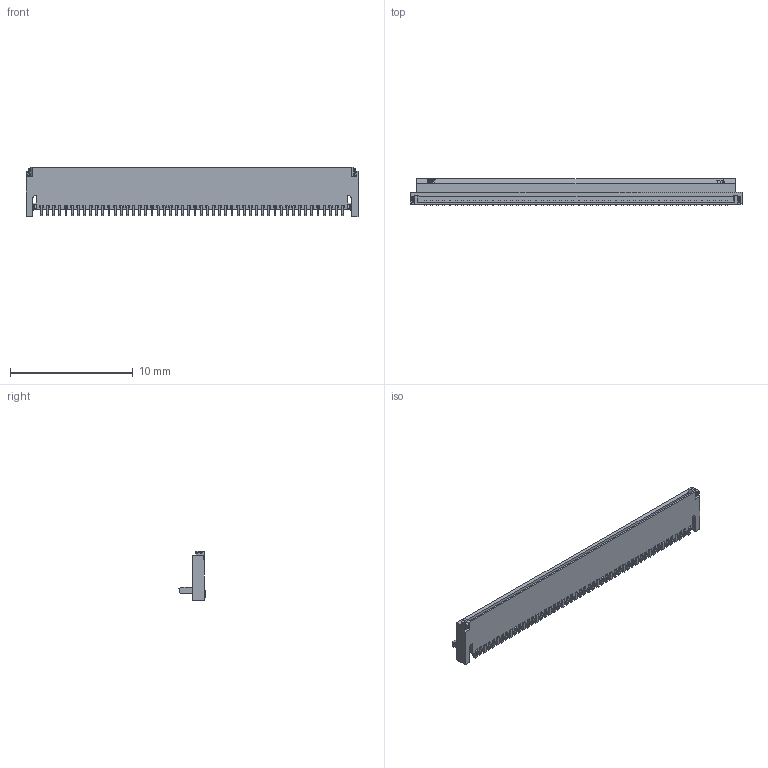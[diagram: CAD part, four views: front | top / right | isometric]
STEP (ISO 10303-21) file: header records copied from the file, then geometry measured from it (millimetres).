
FILE_DESCRIPTION (( 'STEP AP203' ), '1' );
FILE_NAME ('FF14C-50A-R1xB(Open).STEP', '2018-12-25T08:35:19', ( '' ), ( '' ), 'SwSTEP 2.0', 'SolidWorks 2018', '' );
FILE_SCHEMA (( 'CONFIG_CONTROL_DESIGN' ));
Products named in the file (1): FF14C-50A-R1xB(Open)
Bounding box: 27 x 2.14 x 4 mm (x, y, z)
Volume: 76.9 mm3; surface area: 501.9 mm2
Topology: 1 solids, 1 shells, 2815 faces, 8429 edges, 5549 vertices
Faces by surface type: plane 2330, cylinder 466, bspline 16, cone 3
Entity records: 94557 total; most frequent: CARTESIAN_POINT 18192, ORIENTED_EDGE 16858, DIRECTION 14742, EDGE_CURVE 8429, LINE 7340, VECTOR 7340, VERTEX_POINT 5549, AXIS2_PLACEMENT_3D 3701
